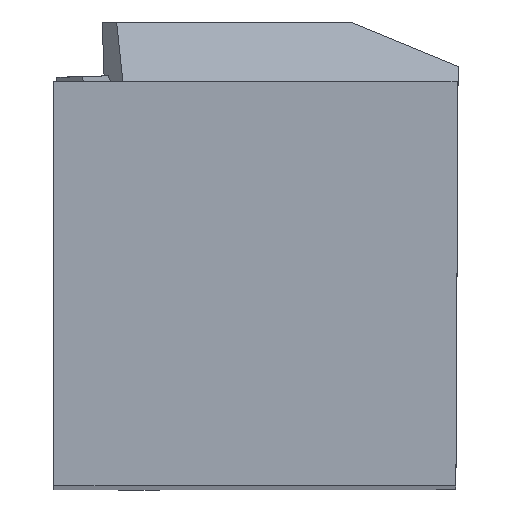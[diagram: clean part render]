
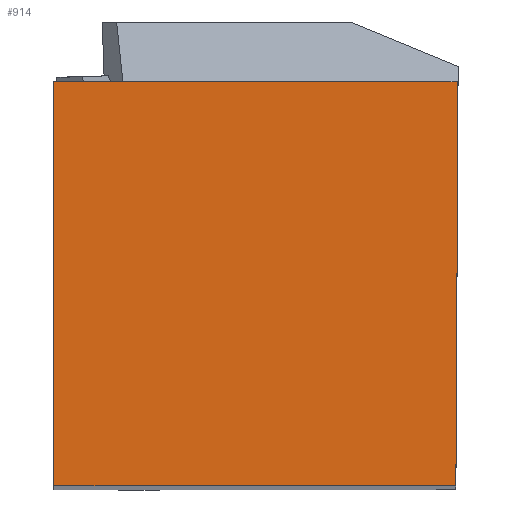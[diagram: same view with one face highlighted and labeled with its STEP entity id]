
A CAD part, top view. The second image highlights one B-rep face of the part: STEP entity #914.
In plain terms, the highlighted planar face has unit normal (0, 0, 1).
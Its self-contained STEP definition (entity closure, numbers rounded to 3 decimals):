
#656=FACE_OUTER_BOUND('',#1233,.T.);
#914=ADVANCED_FACE('BLANK_BOXF006',(#656),#1130,.F.);
#1130=PLANE('',#3746);
#1233=EDGE_LOOP('',(#1514,#1515,#1516,#1517));
#1514=ORIENTED_EDGE('',*,*,#2889,.T.);
#1515=ORIENTED_EDGE('',*,*,#2884,.T.);
#1516=ORIENTED_EDGE('',*,*,#2881,.T.);
#1517=ORIENTED_EDGE('',*,*,#2898,.F.);
#2549=VERTEX_POINT('',#4649);
#2550=VERTEX_POINT('',#4651);
#2551=VERTEX_POINT('',#4656);
#2555=VERTEX_POINT('',#4666);
#2881=EDGE_CURVE('',#2550,#2549,#3413,.T.);
#2884=EDGE_CURVE('',#2551,#2550,#3416,.T.);
#2889=EDGE_CURVE('',#2555,#2551,#3420,.T.);
#2898=EDGE_CURVE('',#2555,#2549,#3428,.T.);
#3413=LINE('',#4650,#3579);
#3416=LINE('',#4655,#3582);
#3420=LINE('',#4665,#3586);
#3428=LINE('',#4682,#3594);
#3579=VECTOR('',#3989,1.);
#3582=VECTOR('',#3994,1.);
#3586=VECTOR('',#4002,1.);
#3594=VECTOR('',#4022,1.);
#3746=AXIS2_PLACEMENT_3D('',#4683,#4023,#4024);
#3989=DIRECTION('',(0.005,1.,0.));
#3994=DIRECTION('',(1.,0.,0.));
#4002=DIRECTION('',(0.,-1.,0.));
#4022=DIRECTION('',(1.,0.,0.));
#4023=DIRECTION('',(0.,0.,-1.));
#4024=DIRECTION('',(-1.,0.,0.));
#4649=CARTESIAN_POINT('',(0.,19.875,0.));
#4650=CARTESIAN_POINT('',(0.016,22.864,0.));
#4651=CARTESIAN_POINT('',(-0.104,0.,0.));
#4655=CARTESIAN_POINT('',(-40.,0.,0.));
#4656=CARTESIAN_POINT('',(-19.875,0.,0.));
#4665=CARTESIAN_POINT('',(-19.875,23.,0.));
#4666=CARTESIAN_POINT('',(-19.875,19.875,0.));
#4682=CARTESIAN_POINT('',(-40.,19.875,0.));
#4683=CARTESIAN_POINT('',(-25.875,23.,0.));
